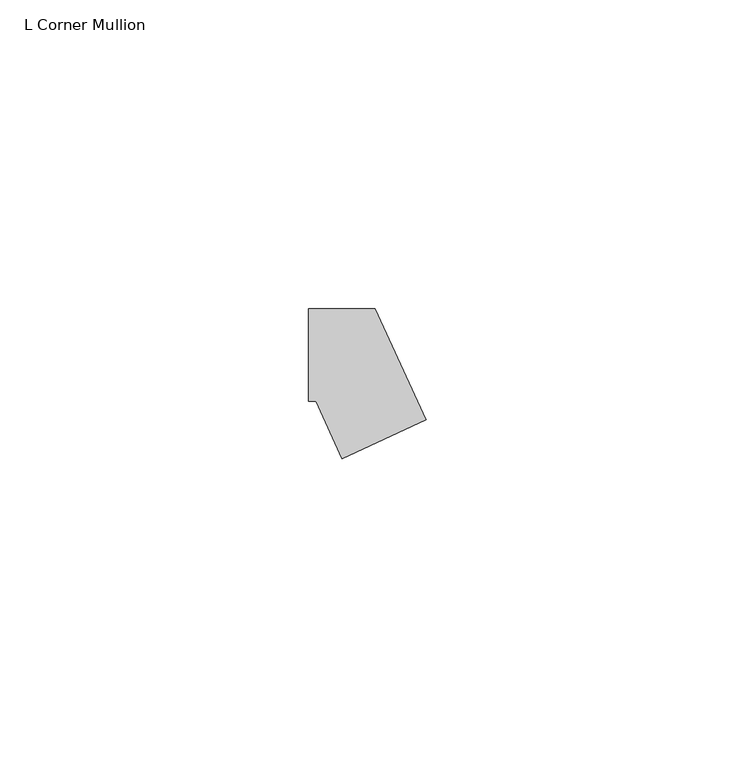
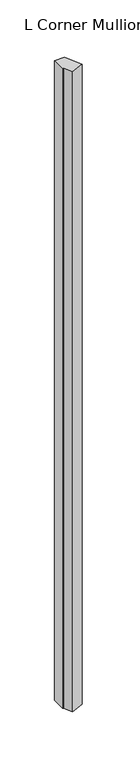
"""IFC4 building model written with IfcOpenShell, lengths in millimetres: member geometry, L Corner Mullion : ARQ_HERR_15X6mm."""

from ifc_helpers import new_model, si_unit, frame, origin, place, context, project, spatial, polyline, outline, extrude, source, transform, mapped, element, save


def l_corner_mullion_4a4ba9d3(model_context):
    return source(origin(), model_context, "Body", "SweptSolid", [
        extrude(outline(polyline([(-0.5775282, -16.7605627), (-4.8156946, -7.5), (-6.0, -7.5), (-6.0, 7.5), (4.8156946, 7.5), (13.0619332, -10.5183601), (-0.5775282, -16.7605627)])), frame((0.0, 0.0, -715.8912707), z_axis=(0.0, 0.0, 1.0), x_axis=(1.0, 0.0, 0.0)), (0.0, 0.0, 1.0), 715.8912707),
    ])


if __name__ == "__main__":
    model = new_model("IFC4")
    model_context = context("Model", 3, world=origin())
    ifc_project = project(units=[si_unit("LENGTHUNIT", "METRE", prefix="MILLI")], contexts=[model_context])
    site = spatial("IfcSite", under=ifc_project)
    building = spatial("IfcBuilding", under=site)
    placement = place(None, origin())
    l_corner_mullion_shape = l_corner_mullion_4a4ba9d3(model_context)
    element("IfcMember", 1, ObjectType="L Corner Mullion : ARQ_HERR_15X6mm", at=placement, inside=building, context=model_context, shape_type="MappedRepresentation", body=[
        mapped(l_corner_mullion_shape, transform((0.0, 0.0, 0.0), x_axis=(1.0, 0.0, 0.0), y_axis=(0.0, 1.0, 0.0), z_axis=(0.0, 0.0, 1.0))),
    ])
    save(model, "model.ifc")
